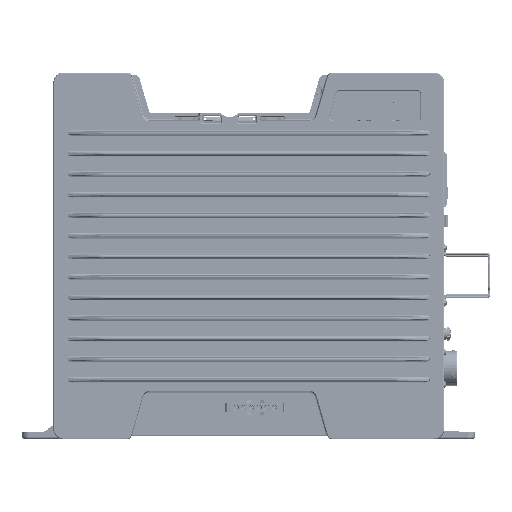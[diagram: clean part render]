
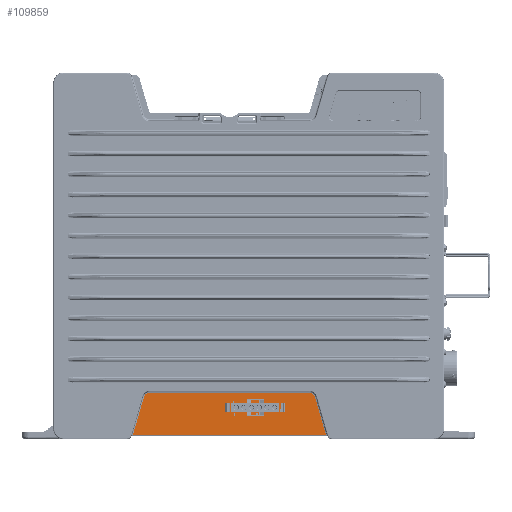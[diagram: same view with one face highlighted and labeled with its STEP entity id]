
A CAD part, left-side view. The second image highlights one B-rep face of the part: STEP entity #109859.
In plain terms, the highlighted planar face has unit normal (-1, 0, 0).
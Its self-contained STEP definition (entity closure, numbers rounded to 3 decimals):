
#40206=DIRECTION('',(0.,1.,0.));
#40207=VECTOR('',#40206,160.75);
#40208=CARTESIAN_POINT('',(-37.6,97.126,3.269));
#40209=LINE('',#40208,#40207);
#40210=CARTESIAN_POINT('',(-37.6,257.876,3.269));
#40211=CARTESIAN_POINT('',(-37.6,257.751,3.449));
#40212=CARTESIAN_POINT('',(-37.6,257.5,3.842));
#40213=CARTESIAN_POINT('',(-37.6,257.14,4.526));
#40214=CARTESIAN_POINT('',(-37.6,256.789,5.344));
#40215=CARTESIAN_POINT('',(-37.6,256.452,6.301));
#40216=CARTESIAN_POINT('',(-37.6,256.128,7.387));
#40217=CARTESIAN_POINT('',(-37.6,255.791,8.57));
#40218=CARTESIAN_POINT('',(-37.6,255.424,9.842));
#40219=CARTESIAN_POINT('',(-37.6,255.031,11.21));
#40220=CARTESIAN_POINT('',(-37.6,254.608,12.678));
#40221=CARTESIAN_POINT('',(-37.6,254.155,14.255));
#40222=CARTESIAN_POINT('',(-37.6,253.668,15.948));
#40223=CARTESIAN_POINT('',(-37.6,253.146,17.765));
#40224=CARTESIAN_POINT('',(-37.6,252.585,19.715));
#40225=CARTESIAN_POINT('',(-37.6,251.983,21.808));
#40226=CARTESIAN_POINT('',(-37.6,251.337,24.055));
#40227=CARTESIAN_POINT('',(-37.6,250.644,26.467));
#40228=CARTESIAN_POINT('',(-37.6,249.899,29.056));
#40229=CARTESIAN_POINT('',(-37.6,249.1,31.834));
#40230=CARTESIAN_POINT('',(-37.6,248.528,33.825));
#40231=CARTESIAN_POINT('',(-37.6,248.232,34.854));
#40233=CARTESIAN_POINT('',(-37.6,243.522,33.5));
#40234=DIRECTION('',(1.,0.,0.));
#40235=DIRECTION('',(0.,0.961,0.276));
#40236=AXIS2_PLACEMENT_3D('',#40233,#40234,#40235);
#40238=DIRECTION('',(0.,-1.,0.));
#40239=VECTOR('',#40238,132.045);
#40240=CARTESIAN_POINT('',(-37.6,243.522,38.401));
#40241=LINE('',#40240,#40239);
#40242=CARTESIAN_POINT('',(-37.6,111.476,33.5));
#40243=DIRECTION('',(1.,0.,0.));
#40244=DIRECTION('',(0.,0.,1.));
#40245=AXIS2_PLACEMENT_3D('',#40242,#40243,#40244);
#40247=CARTESIAN_POINT('',(-37.6,106.766,34.854));
#40248=CARTESIAN_POINT('',(-37.6,106.483,33.868));
#40249=CARTESIAN_POINT('',(-37.6,105.934,31.959));
#40250=CARTESIAN_POINT('',(-37.6,105.166,29.289));
#40251=CARTESIAN_POINT('',(-37.6,104.449,26.794));
#40252=CARTESIAN_POINT('',(-37.6,103.779,24.465));
#40253=CARTESIAN_POINT('',(-37.6,103.153,22.289));
#40254=CARTESIAN_POINT('',(-37.6,102.569,20.257));
#40255=CARTESIAN_POINT('',(-37.6,102.023,18.359));
#40256=CARTESIAN_POINT('',(-37.6,101.514,16.587));
#40257=CARTESIAN_POINT('',(-37.6,101.038,14.932));
#40258=CARTESIAN_POINT('',(-37.6,100.593,13.387));
#40259=CARTESIAN_POINT('',(-37.6,100.178,11.944));
#40260=CARTESIAN_POINT('',(-37.6,99.791,10.598));
#40261=CARTESIAN_POINT('',(-37.6,99.43,9.342));
#40262=CARTESIAN_POINT('',(-37.6,99.093,8.171));
#40263=CARTESIAN_POINT('',(-37.6,98.782,7.082));
#40264=CARTESIAN_POINT('',(-37.6,98.477,6.083));
#40265=CARTESIAN_POINT('',(-37.6,98.158,5.201));
#40266=CARTESIAN_POINT('',(-37.6,97.824,4.443));
#40267=CARTESIAN_POINT('',(-37.6,97.483,
3.808));
#40268=CARTESIAN_POINT('',(-37.6,97.245,
3.439));
#40269=CARTESIAN_POINT('',(-37.6,97.126,3.269));
#40307=CARTESIAN_POINT('',(-37.6,257.876,3.269));
#56536=CARTESIAN_POINT('',(-37.6,111.476,38.401));
#56537=CARTESIAN_POINT('',(-37.6,106.766,34.854));
#56538=VERTEX_POINT('',#56536);
#56539=VERTEX_POINT('',#56537);
#56544=CARTESIAN_POINT('',(-37.6,243.522,38.401));
#56545=VERTEX_POINT('',#56544);
#56548=CARTESIAN_POINT('',(-37.6,248.232,34.854));
#56549=VERTEX_POINT('',#56548);
#56681=VERTEX_POINT('',#40307);
#56687=CARTESIAN_POINT('',(-37.6,97.126,3.269));
#56688=VERTEX_POINT('',#56687);
#109840=CARTESIAN_POINT('',(-37.6,0.,0.));
#109841=DIRECTION('',(-1.,0.,0.));
#109842=DIRECTION('',(0.,0.,1.));
#109843=AXIS2_PLACEMENT_3D('',#109840,#109841,#109842);
#109844=PLANE('',#109843);
#109846=ORIENTED_EDGE('',*,*,#109845,.T.);
#109848=ORIENTED_EDGE('',*,*,#109847,.T.);
#109850=ORIENTED_EDGE('',*,*,#109849,.T.);
#109852=ORIENTED_EDGE('',*,*,#109851,.T.);
#109854=ORIENTED_EDGE('',*,*,#109853,.T.);
#109856=ORIENTED_EDGE('',*,*,#109855,.T.);
#109857=EDGE_LOOP('',(#109846,#109848,#109850,#109852,#109854,#109856));
#109858=FACE_OUTER_BOUND('',#109857,.F.);
#40232=B_SPLINE_CURVE_WITH_KNOTS('',3,(#40210,#40211,#40212,#40213,#40214,
#40215,#40216,#40217,#40218,#40219,#40220,#40221,#40222,#40223,#40224,#40225,
#40226,#40227,#40228,#40229,#40230,#40231),.UNSPECIFIED.,.F.,.F.,(4,1,1,1,1,1,1,
1,1,1,1,1,1,1,1,1,1,1,1,4),(0.,0.053,0.105,
0.158,0.211,0.263,0.316,
0.368,0.421,0.474,0.526,
0.579,0.632,0.684,0.737,
0.789,0.842,0.895,0.947,1.),
.UNSPECIFIED.);
#40237=CIRCLE('',#40236,4.901);
#40246=CIRCLE('',#40245,4.901);
#40270=B_SPLINE_CURVE_WITH_KNOTS('',3,(#40247,#40248,#40249,#40250,#40251,
#40252,#40253,#40254,#40255,#40256,#40257,#40258,#40259,#40260,#40261,#40262,
#40263,#40264,#40265,#40266,#40267,#40268,#40269),.UNSPECIFIED.,.F.,.F.,(4,1,1,
1,1,1,1,1,1,1,1,1,1,1,1,1,1,1,1,1,4),(0.,0.05,0.1,0.15,0.2,0.25,
0.3,0.35,0.4,0.45,0.5,0.55,0.6,0.65,0.7,0.75,0.8,0.85,
0.9,0.95,1.),.UNSPECIFIED.);
#109845=EDGE_CURVE('',#56688,#56681,#40209,.T.);
#109847=EDGE_CURVE('',#56681,#56549,#40232,.T.);
#109849=EDGE_CURVE('',#56549,#56545,#40237,.T.);
#109851=EDGE_CURVE('',#56545,#56538,#40241,.T.);
#109853=EDGE_CURVE('',#56538,#56539,#40246,.T.);
#109855=EDGE_CURVE('',#56539,#56688,#40270,.T.);
#109859=ADVANCED_FACE('',(#109858),#109844,.T.);
